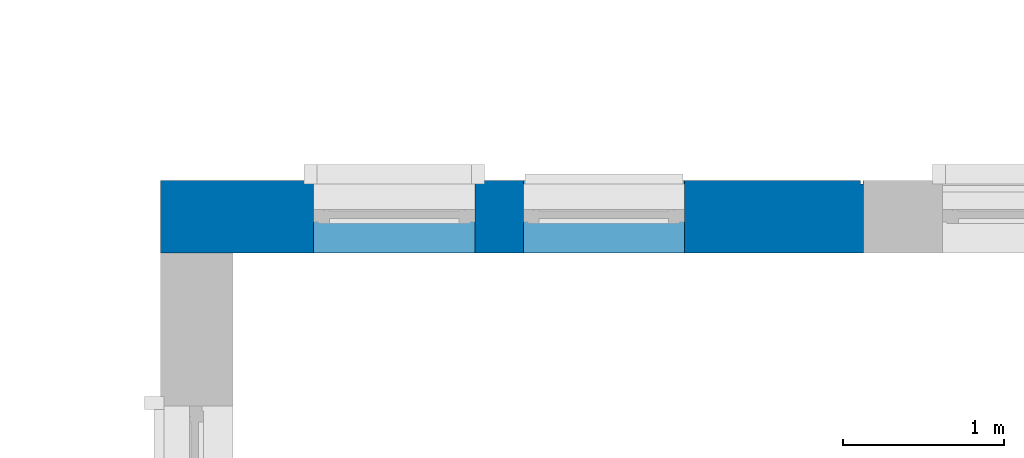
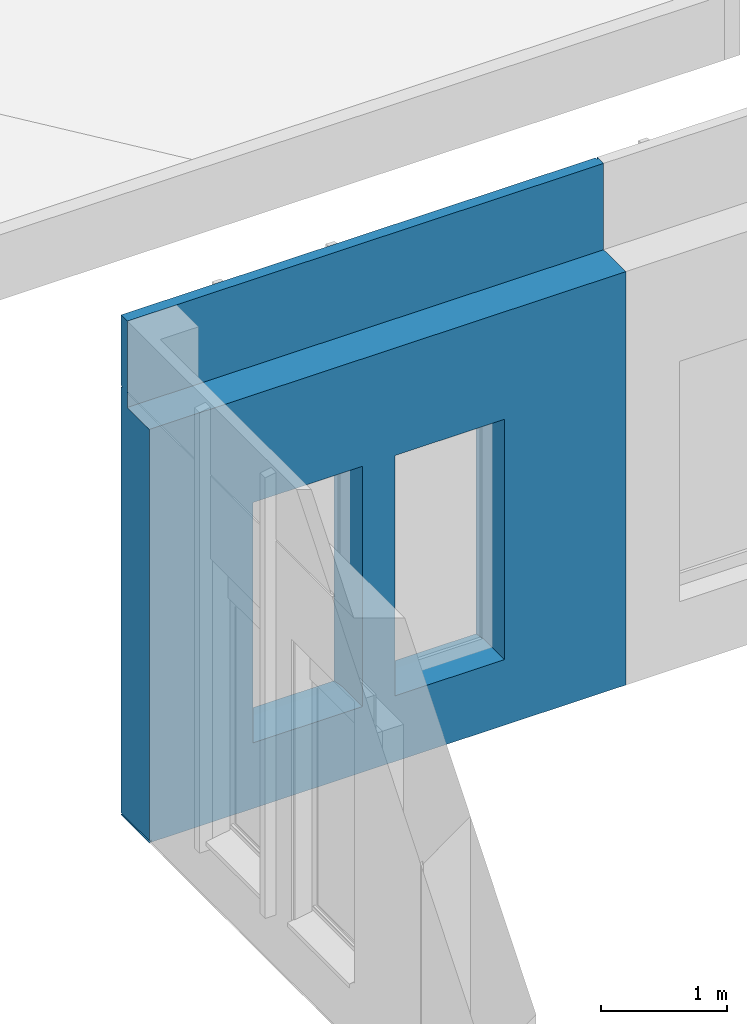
# One storey, part 12 of 33: 1 wall, 5 openings.
"""IFC2X3 building model written with IfcOpenShell, lengths in millimetres."""

from ifc_helpers import new_model, entity, si_unit, converted_unit, derived_unit, direction, frame, frame_2d, origin, place, context, subcontext, project, spatial, polyline, rectangle, extrude, clip, bounded_halfspace, faceted_brep, material, layer, layer_set, layer_usage, type_object, element, save


model = new_model("IFC2X3")

# Units and contexts
model_context = context("Model", 3, precision=0.01, world=origin(), true_north=direction((6.12303176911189e-17, 1.0)))
body_context = subcontext(model_context, "Body", "Model", "MODEL_VIEW")
ifc_project = project(units=[si_unit("LENGTHUNIT", "METRE", prefix="MILLI"), si_unit("AREAUNIT", "SQUARE_METRE"), si_unit("VOLUMEUNIT", "CUBIC_METRE"), converted_unit("PLANEANGLEUNIT", "DEGREE", entity("IfcRatioMeasure", 0.0174532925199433), si_unit("PLANEANGLEUNIT", "RADIAN"), dimensions=[0, 0, 0, 0, 0, 0, 0]), si_unit("MASSUNIT", "GRAM", prefix="KILO"), derived_unit("MASSDENSITYUNIT", [(si_unit("MASSUNIT", "GRAM", prefix="KILO"), 1), (si_unit("LENGTHUNIT", "METRE"), -3)]), si_unit("TIMEUNIT", "SECOND"), si_unit("FREQUENCYUNIT", "HERTZ"), si_unit("THERMODYNAMICTEMPERATUREUNIT", "DEGREE_CELSIUS"), derived_unit("THERMALTRANSMITTANCEUNIT", [(si_unit("MASSUNIT", "GRAM", prefix="KILO"), 1), (si_unit("THERMODYNAMICTEMPERATUREUNIT", "KELVIN"), -1), (si_unit("TIMEUNIT", "SECOND"), -3)]), derived_unit("VOLUMETRICFLOWRATEUNIT", [(si_unit("LENGTHUNIT", "METRE"), 3), (si_unit("TIMEUNIT", "SECOND"), -1)]), si_unit("ELECTRICCURRENTUNIT", "AMPERE"), si_unit("ELECTRICVOLTAGEUNIT", "VOLT"), si_unit("POWERUNIT", "WATT"), si_unit("FORCEUNIT", "NEWTON", prefix="KILO"), si_unit("ILLUMINANCEUNIT", "LUX"), si_unit("LUMINOUSFLUXUNIT", "LUMEN"), si_unit("LUMINOUSINTENSITYUNIT", "CANDELA"), derived_unit("USERDEFINED", [(si_unit("MASSUNIT", "GRAM", prefix="KILO"), -1), (si_unit("LENGTHUNIT", "METRE"), -2), (si_unit("TIMEUNIT", "SECOND"), 3), (si_unit("LUMINOUSFLUXUNIT", "LUMEN"), 1)]), derived_unit("LINEARVELOCITYUNIT", [(si_unit("LENGTHUNIT", "METRE"), 1), (si_unit("TIMEUNIT", "SECOND"), -1)]), si_unit("PRESSUREUNIT", "PASCAL"), derived_unit("USERDEFINED", [(si_unit("LENGTHUNIT", "METRE"), -2), (si_unit("MASSUNIT", "GRAM", prefix="KILO"), 1), (si_unit("TIMEUNIT", "SECOND"), -2)])], contexts=[model_context])

# Site, building, storey
site_placement = place(None, origin())
site = spatial("IfcSite", under=ifc_project, at=site_placement, Name="Default", CompositionType="ELEMENT")
building_placement = place(site_placement, origin())
building = spatial("IfcBuilding", under=site, at=building_placement, CompositionType="ELEMENT")
storey_placement = place(building_placement, frame((0.0, 0.0, 4000.0)))
storey = spatial("IfcBuildingStorey", under=building, at=storey_placement, Name="2. KORRUS", CompositionType="ELEMENT", Elevation=4000.0)

# Wall, openings
ifc_material_1 = material(Name="RECKLI 1 173 THUR by Polantis 2016-toon4")
ifc_layer_1 = layer(ifc_material_1, 100.0)
ifc_material_2 = material(Name="Soojusisolatsioon EPS")
ifc_layer_2 = layer(ifc_material_2, 200.0)
ifc_material_3 = material(Name="r/b")
ifc_layer_3 = layer(ifc_material_3, 150.0)
ifc_layer_set = layer_set([ifc_layer_1, ifc_layer_2, ifc_layer_3], Name="Basic Wall:VS-1_toon-a")
ifc_layer_usage = layer_usage(ifc_layer_set, "AXIS2", "NEGATIVE", 225.0)
wall_type = type_object("IfcWallType", Name="Basic Wall:VS-1_toon-a", PredefinedType="STANDARD", material=ifc_layer_set)
wall_placement = place(storey_placement, frame((-450.0, 27825.0, -135.0)))
wall = element("IfcWallStandardCase", 1, at=wall_placement, inside=storey, type_object=wall_type, material=ifc_layer_usage, Name="Basic Wall:VS-1_toon-a", ObjectType="Basic Wall:VS-1_toon-a", context=body_context, shape_type="Clipping", body=[
    clip(extrude(rectangle(XDim=4360.0, YDim=450.000000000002, at=frame_2d((2180.0, -1.46371803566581e-12), x_axis=(-1.0, 0.0))), origin(), (0.0, 0.0, 1.0), 4835.0), bounded_halfspace(frame((0.0, -225.0, 4000.0), z_axis=(0.0, 0.0, 1.0), x_axis=(0.0, 1.0, 0.0)), False, frame((0.0, -225.0, 4000.0)), polyline([(0.0, 0.0), (450.0, 0.0), (4360.0, 0.0), (4360.0, 350.0), (100.0, 350.0), (0.0, 350.0), (0.0, 0.0)]))),
])
opening_1_placement = place(wall_placement, origin())
element("IfcOpeningElement", 2, at=opening_1_placement, cuts=wall, Name="Basic Wall:VS-1_toon-a", ObjectType="Recess", context=body_context, shape_type="SweptSolid", body=[
    extrude(rectangle(XDim=4265.0, YDim=16.0000000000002, at=frame_2d((0.0, -2.70450328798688e-13), x_axis=(1.0, 0.0))), frame((4349.95631181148, 205.0, -2132.5), z_axis=(0.0, 1.0, 0.0), x_axis=(0.0, 0.0, 1.0)), (0.0, 0.0, 1.0), 19.9999999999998),
    extrude(rectangle(XDim=4835.0, YDim=16.0000000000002, at=frame_2d((2.27373675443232e-13, -2.70450328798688e-13), x_axis=(1.0, 0.0))), frame((4349.95631181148, 205.0, 2417.5), z_axis=(0.0, 1.0, 0.0), x_axis=(0.0, 0.0, 1.0)), (0.0, 0.0, 1.0), 19.9999999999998),
])
opening_2_placement = place(wall_placement, frame((0.0, -28275.0, 4.0)))
element("IfcOpeningElement", 3, at=opening_2_placement, cuts=wall, Name="Basic Wall:VS-1_toon-a", ObjectType="Opening", context=body_context, shape_type="Brep", body=[
    faceted_brep([(11850.0, 20.0, 16.0), (11850.0, 0.0, 16.0), (11850.0, 0.0, 0.0), (11850.0, 20.0, 0.0), (4260.0, 20.0, 16.0), (4260.0, 20.0, 0.0), (4260.0, 0.0, 0.0), (4260.0, 0.0, 16.0)], [[[0, 1, 2, 3]], [[4, 5, 6, 7]], [[1, 0, 4, 7]], [[2, 1, 7, 6]], [[3, 2, 6, 5]], [[0, 3, 5, 4]]]),
    faceted_brep([(20.0, 28480.0, 16.0), (20.0, 28480.0, 0.0), (0.0, 28500.0, 0.0), (0.0, 28500.0, 16.0), (20.0, 23740.0, 16.0), (0.0, 23740.0, 16.0), (0.0, 23740.0, 0.0), (20.0, 23740.0, 0.0)], [[[0, 1, 2, 3]], [[4, 5, 6, 7]], [[1, 0, 4, 7]], [[2, 1, 7, 6]], [[3, 2, 6, 5]], [[0, 3, 5, 4]]]),
    faceted_brep([(10080.0, 22380.0517807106, 16.0), (10100.0, 22400.0517807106, 16.0), (10100.0, 22400.0517807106, 0.0), (10080.0, 22380.0517807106, 0.0), (15330.3475962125, 22380.0517807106, 16.0), (15330.3475962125, 22380.0517807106, 0.0), (15330.3475962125, 22400.0517807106, 0.0), (15330.3475962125, 22400.0517807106, 16.0)], [[[0, 1, 2, 3]], [[4, 5, 6, 7]], [[1, 0, 4, 7]], [[2, 1, 7, 6]], [[3, 2, 6, 5]], [[0, 3, 5, 4]]]),
    faceted_brep([(20.0, 28480.0, 16.0), (0.0, 28500.0, 16.0), (0.0, 28500.0, 0.0), (20.0, 28480.0, 0.0), (4360.0, 28480.0, 16.0), (4360.0, 28480.0, 0.0), (4360.0, 28500.0, 0.0), (4360.0, 28500.0, 16.0)], [[[0, 1, 2, 3]], [[4, 5, 6, 7]], [[1, 0, 4, 7]], [[2, 1, 7, 6]], [[3, 2, 6, 5]], [[0, 3, 5, 4]]]),
    faceted_brep([(40380.0, 20.0, 16.0), (40400.0, 0.0, 16.0), (40400.0, 0.0, 0.0), (40380.0, 20.0, 0.0), (35250.0, 20.0, 16.0), (35250.0, 20.0, 0.0), (35250.0, 0.0, 0.0), (35250.0, 0.0, 16.0)], [[[0, 1, 2, 3]], [[4, 5, 6, 7]], [[1, 0, 4, 7]], [[2, 1, 7, 6]], [[3, 2, 6, 5]], [[0, 3, 5, 4]]]),
    faceted_brep([(34420.1035702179, 22380.0517807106, 16.0), (34420.1035702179, 22400.0517807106, 16.0), (34420.1035702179, 22400.0517807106, 0.0), (34420.1035702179, 22380.0517807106, 0.0), (40380.0, 22380.0517807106, 16.0), (40380.0, 22380.0517807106, 0.0), (40400.0, 22400.0517807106, 0.0), (40400.0, 22400.0517807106, 16.0)], [[[0, 1, 2, 3]], [[4, 5, 6, 7]], [[1, 0, 4, 7]], [[2, 1, 7, 6]], [[3, 2, 6, 5]], [[0, 3, 5, 4]]]),
    faceted_brep([(29113.2161487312, 22380.0517807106, 16.0), (29113.2161487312, 22400.0517807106, 16.0), (29113.2161487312, 22400.0517807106, 0.0), (29113.2161487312, 22380.0517807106, 0.0), (34420.1035702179, 22380.0517807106, 16.0), (34420.1035702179, 22380.0517807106, 0.0), (34420.1035702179, 22400.0517807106, 0.0), (34420.1035702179, 22400.0517807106, 16.0)], [[[0, 1, 2, 3]], [[4, 5, 6, 7]], [[1, 0, 4, 7]], [[2, 1, 7, 6]], [[3, 2, 6, 5]], [[0, 3, 5, 4]]]),
    faceted_brep([(10080.0, 28480.0, 16.0), (10100.0, 28500.0, 16.0), (10100.0, 28500.0, 0.0), (10080.0, 28480.0, 0.0), (10080.0, 22380.0517807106, 16.0), (10080.0, 22380.0517807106, 0.0), (10100.0, 22400.0517807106, 0.0), (10100.0, 22400.0517807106, 16.0)], [[[0, 1, 2, 3]], [[4, 5, 6, 7]], [[1, 0, 4, 7]], [[2, 1, 7, 6]], [[3, 2, 6, 5]], [[0, 3, 5, 4]]]),
    faceted_brep([(4260.0, 20.0, 16.0), (4260.0, 0.0, 16.0), (4260.0, 0.0, 0.0), (4260.0, 20.0, 0.0), (0.0, 20.0, 16.0), (0.0, 20.0, 0.0), (0.0, 0.0, 0.0), (0.0, 0.0, 16.0)], [[[0, 1, 2, 3]], [[4, 5, 6, 7]], [[1, 0, 4, 7]], [[2, 1, 7, 6]], [[3, 2, 6, 5]], [[0, 3, 5, 4]]]),
    faceted_brep([(40380.0, 4865.0, 16.0), (40400.0, 4865.0, 16.0), (40400.0, 4865.0, 0.0), (40380.0, 4865.0, 0.0), (40380.0, 20.0, 16.0), (40380.0, 20.0, 0.0), (40400.0, 0.0, 0.0), (40400.0, 0.0, 16.0)], [[[0, 1, 2, 3]], [[4, 5, 6, 7]], [[1, 0, 4, 7]], [[2, 1, 7, 6]], [[3, 2, 6, 5]], [[0, 3, 5, 4]]]),
    faceted_brep([(40380.0, 9093.33000000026, 16.0), (40400.0, 9093.33000000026, 16.0), (40400.0, 9093.33000000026, 0.0), (40380.0, 9093.33000000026, 0.0), (40380.0, 4865.0, 16.0), (40380.0, 4865.0, 0.0), (40400.0, 4865.0, 0.0), (40400.0, 4865.0, 16.0)], [[[0, 1, 2, 3]], [[4, 5, 6, 7]], [[1, 0, 4, 7]], [[2, 1, 7, 6]], [[3, 2, 6, 5]], [[0, 3, 5, 4]]]),
    faceted_brep([(40380.0, 13210.0, 16.0), (40400.0, 13210.0, 16.0), (40400.0, 13210.0, 0.0), (40380.0, 13210.0, 0.0), (40380.0, 9093.33000000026, 16.0), (40380.0, 9093.33000000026, 0.0), (40400.0, 9093.33000000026, 0.0), (40400.0, 9093.33000000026, 16.0)], [[[0, 1, 2, 3]], [[4, 5, 6, 7]], [[1, 0, 4, 7]], [[2, 1, 7, 6]], [[3, 2, 6, 5]], [[0, 3, 5, 4]]]),
    faceted_brep([(40380.0, 16240.0, 16.0), (40400.0, 16240.0, 16.0), (40400.0, 16240.0, 0.0), (40380.0, 16240.0, 0.0), (40380.0, 13210.0, 16.0), (40380.0, 13210.0, 0.0), (40400.0, 13210.0, 0.0), (40400.0, 13210.0, 16.0)], [[[0, 1, 2, 3]], [[4, 5, 6, 7]], [[1, 0, 4, 7]], [[2, 1, 7, 6]], [[3, 2, 6, 5]], [[0, 3, 5, 4]]]),
    faceted_brep([(40380.0, 22380.0517807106, 16.0), (40400.0, 22400.0517807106, 16.0), (40400.0, 22400.0517807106, 0.0), (40380.0, 22380.0517807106, 0.0), (40380.0, 16240.0, 16.0), (40380.0, 16240.0, 0.0), (40400.0, 16240.0, 0.0), (40400.0, 16240.0, 16.0)], [[[0, 1, 2, 3]], [[4, 5, 6, 7]], [[1, 0, 4, 7]], [[2, 1, 7, 6]], [[3, 2, 6, 5]], [[0, 3, 5, 4]]]),
    faceted_brep([(22535.0, 22380.0517807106, 16.0), (22535.0, 22400.0517807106, 16.0), (22535.0, 22400.0517807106, 0.0), (22535.0, 22380.0517807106, 0.0), (29113.2161487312, 22380.0517807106, 16.0), (29113.2161487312, 22380.0517807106, 0.0), (29113.2161487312, 22400.0517807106, 0.0), (29113.2161487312, 22400.0517807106, 16.0)], [[[0, 1, 2, 3]], [[4, 5, 6, 7]], [[1, 0, 4, 7]], [[2, 1, 7, 6]], [[3, 2, 6, 5]], [[0, 3, 5, 4]]]),
    faceted_brep([(18703.3528910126, 22380.0517807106, 16.0), (18703.3528910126, 22400.0517807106, 16.0), (18703.3528910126, 22400.0517807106, 0.0), (18703.3528910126, 22380.0517807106, 0.0), (22535.0, 22380.0517807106, 16.0), (22535.0, 22380.0517807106, 0.0), (22535.0, 22400.0517807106, 0.0), (22535.0, 22400.0517807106, 16.0)], [[[0, 1, 2, 3]], [[4, 5, 6, 7]], [[1, 0, 4, 7]], [[2, 1, 7, 6]], [[3, 2, 6, 5]], [[0, 3, 5, 4]]]),
    faceted_brep([(15330.3475962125, 22380.0517807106, 16.0), (15330.3475962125, 22400.0517807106, 16.0), (15330.3475962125, 22400.0517807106, 0.0), (15330.3475962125, 22380.0517807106, 0.0), (18703.3528910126, 22380.0517807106, 16.0), (18703.3528910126, 22380.0517807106, 0.0), (18703.3528910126, 22400.0517807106, 0.0), (18703.3528910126, 22400.0517807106, 16.0)], [[[0, 1, 2, 3]], [[4, 5, 6, 7]], [[1, 0, 4, 7]], [[2, 1, 7, 6]], [[3, 2, 6, 5]], [[0, 3, 5, 4]]]),
    faceted_brep([(4360.0, 28480.0, 16.0), (4360.0, 28500.0, 16.0), (4360.0, 28500.0, 0.0), (4360.0, 28480.0, 0.0), (10080.0, 28480.0, 16.0), (10080.0, 28480.0, 0.0), (10100.0, 28500.0, 0.0), (10100.0, 28500.0, 16.0)], [[[0, 1, 2, 3]], [[4, 5, 6, 7]], [[1, 0, 4, 7]], [[2, 1, 7, 6]], [[3, 2, 6, 5]], [[0, 3, 5, 4]]]),
    faceted_brep([(20.0, 23740.0, 16.0), (20.0, 23740.0, 0.0), (0.0, 23740.0, 0.0), (0.0, 23740.0, 16.0), (20.0, 16890.0006972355, 16.0), (0.0, 16890.0006972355, 16.0), (0.0, 16890.0006972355, 0.0), (20.0, 16890.0006972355, 0.0)], [[[0, 1, 2, 3]], [[4, 5, 6, 7]], [[1, 0, 4, 7]], [[2, 1, 7, 6]], [[3, 2, 6, 5]], [[0, 3, 5, 4]]]),
    faceted_brep([(20.0, 16890.0006972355, 16.0), (20.0, 16890.0006972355, 0.0), (0.0, 16890.0006972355, 0.0), (0.0, 16890.0006972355, 16.0), (20.0, 13460.0, 16.0), (0.0, 13460.0, 16.0), (0.0, 13460.0, 0.0), (20.0, 13460.0, 0.0)], [[[0, 1, 2, 3]], [[4, 5, 6, 7]], [[1, 0, 4, 7]], [[2, 1, 7, 6]], [[3, 2, 6, 5]], [[0, 3, 5, 4]]]),
])
opening_3_placement = place(wall_placement, origin())
element("IfcOpeningElement", 4, at=opening_3_placement, cuts=wall, Name="Basic Wall:VS-1_toon-a", ObjectType="Opening", context=body_context, shape_type="SweptSolid", body=[
    extrude(rectangle(XDim=15.9999999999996, YDim=7590.0, at=frame_2d((0.0, -5.40900657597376e-13), x_axis=(0.0, 1.0))), frame((8055.0, -28275.0, 4147.0), z_axis=(0.0, 1.0, 0.0), x_axis=(-1.0, 0.0, 0.0)), (0.0, 0.0, 1.0), 20.0),
    extrude(rectangle(XDim=15.9999999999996, YDim=20.0, at=frame_2d((5.40900657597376e-13, -3.37507799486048e-14), x_axis=(1.0, 0.0))), frame((10.0, -4535.0, 4147.0), z_axis=(0.0, 1.0, 0.0), x_axis=(0.0, 0.0, -1.0)), (0.0, 0.0, 1.0), 4660.0),
    extrude(rectangle(XDim=15.9999999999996, YDim=5230.3475962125, at=frame_2d((0.0, 5.40900657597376e-13), x_axis=(0.0, 1.0))), frame((12715.1737981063, -5894.94821928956, 4147.0), z_axis=(0.0, 1.0, 0.0), x_axis=(1.0, 0.0, 0.0)), (0.0, 0.0, 1.0), 19.9999999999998),
    extrude(rectangle(XDim=15.9999999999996, YDim=4360.0, at=frame_2d((0.0, 5.40900657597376e-13), x_axis=(0.0, 1.0))), frame((2180.0, 205.0, 4147.0), z_axis=(0.0, 1.0, 0.0), x_axis=(1.0, 0.0, 0.0)), (0.0, 0.0, 1.0), 19.9999999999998),
    extrude(rectangle(XDim=15.9999999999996, YDim=5050.0, at=frame_2d((2.27373675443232e-12, 0.0), x_axis=(0.0, 1.0))), frame((37775.0, -28275.0, 4147.0), z_axis=(0.0, 1.0, 0.0), x_axis=(-1.0, 0.0, 0.0)), (0.0, 0.0, 1.0), 20.0),
    extrude(rectangle(XDim=15.9999999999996, YDim=5979.89642978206, at=frame_2d((-2.27373675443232e-12, 0.0), x_axis=(0.0, 1.0))), frame((37410.051785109, -5894.94821928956, 4147.0), z_axis=(0.0, 1.0, 0.0), x_axis=(1.0, 0.0, 0.0)), (0.0, 0.0, 1.0), 19.9999999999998),
    extrude(rectangle(XDim=15.9999999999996, YDim=5306.88742148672, at=frame_2d((2.04636307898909e-12, 5.40900657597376e-13), x_axis=(0.0, 1.0))), frame((31766.6598594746, -5894.94821928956, 4147.0), z_axis=(0.0, 1.0, 0.0), x_axis=(1.0, 0.0, 0.0)), (0.0, 0.0, 1.0), 19.9999999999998),
    extrude(rectangle(XDim=15.9999999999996, YDim=19.9999999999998, at=frame_2d((0.0, 5.40900657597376e-13), x_axis=(0.0, 1.0))), frame((10090.0, -5974.94821928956, 4147.0), z_axis=(0.0, 1.0, 0.0), x_axis=(1.0, 0.0, 0.0)), (0.0, 0.0, 1.0), 6099.94821928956),
    extrude(rectangle(XDim=15.9999999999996, YDim=4160.00000000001, at=frame_2d((0.0, -5.40900657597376e-13), x_axis=(0.0, 1.0))), frame((2180.0, -28275.0, 4147.0), z_axis=(0.0, 1.0, 0.0), x_axis=(-1.0, 0.0, 0.0)), (0.0, 0.0, 1.0), 20.0),
    extrude(rectangle(XDim=15.9999999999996, YDim=20.0000000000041, at=frame_2d((4.33164615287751e-12, 5.40900657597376e-13), x_axis=(0.0, 1.0))), frame((40390.0, -28275.0, 4147.0), z_axis=(0.0, 1.0, 0.0), x_axis=(1.0, 0.0, 0.0)), (0.0, 0.0, 1.0), 4865.0),
    extrude(rectangle(XDim=15.9999999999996, YDim=20.0000000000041, at=frame_2d((-4.33164615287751e-12, -5.40900657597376e-13), x_axis=(0.0, 1.0))), frame((40390.0, -23410.0, 4147.0), z_axis=(0.0, 1.0, 0.0), x_axis=(1.0, 0.0, 0.0)), (0.0, 0.0, 1.0), 4228.33000000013),
    extrude(rectangle(XDim=15.9999999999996, YDim=20.0000000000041, at=frame_2d((-4.33164615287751e-12, -5.40900657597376e-13), x_axis=(0.0, 1.0))), frame((40390.0, -19181.6699999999, 4147.0), z_axis=(0.0, 1.0, 0.0), x_axis=(1.0, 0.0, 0.0)), (0.0, 0.0, 1.0), 4236.66999997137),
    extrude(rectangle(XDim=15.9999999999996, YDim=20.0000000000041, at=frame_2d((4.33164615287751e-12, 5.40900657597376e-13), x_axis=(0.0, 1.0))), frame((40390.0, -14945.0, 4147.0), z_axis=(0.0, 1.0, 0.0), x_axis=(1.0, 0.0, 0.0)), (0.0, 0.0, 1.0), 2910.00000002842),
    extrude(rectangle(XDim=15.9999999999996, YDim=20.0000000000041, at=frame_2d((-4.33164615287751e-12, 5.40900657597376e-13), x_axis=(0.0, 1.0))), frame((40390.0, -12035.0, 4147.0), z_axis=(0.0, 1.0, 0.0), x_axis=(1.0, 0.0, 0.0)), (0.0, 0.0, 1.0), 6060.05178071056),
    extrude(rectangle(XDim=15.9999999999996, YDim=3831.64710898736, at=frame_2d((1.13686837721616e-12, 5.40900657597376e-13), x_axis=(0.0, 1.0))), frame((20619.1764455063, -5894.94821928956, 4147.0), z_axis=(0.0, 1.0, 0.0), x_axis=(1.0, 0.0, 0.0)), (0.0, 0.0, 1.0), 19.9999999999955),
    extrude(rectangle(XDim=15.9999999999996, YDim=3373.00529480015, at=frame_2d((0.0, 5.40900657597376e-13), x_axis=(0.0, 1.0))), frame((17016.8502436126, -5894.94821928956, 4147.0), z_axis=(0.0, 1.0, 0.0), x_axis=(1.0, 0.0, 0.0)), (0.0, 0.0, 1.0), 19.9999999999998),
    extrude(rectangle(XDim=15.9999999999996, YDim=5739.99999999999, at=frame_2d((-2.27373675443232e-13, 5.40900657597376e-13), x_axis=(0.0, 1.0))), frame((7230.0, 205.0, 4147.0), z_axis=(0.0, 1.0, 0.0), x_axis=(1.0, 0.0, 0.0)), (0.0, 0.0, 1.0), 19.9999999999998),
    extrude(rectangle(XDim=15.9999999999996, YDim=20.0, at=frame_2d((5.40900657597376e-13, -3.37507799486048e-14), x_axis=(1.0, 0.0))), frame((10.0, -11384.9993027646, 4147.0), z_axis=(0.0, 1.0, 0.0), x_axis=(0.0, 0.0, -1.0)), (0.0, 0.0, 1.0), 6849.99930276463),
    extrude(rectangle(XDim=15.9999999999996, YDim=20.0, at=frame_2d((5.40900657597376e-13, 3.37507799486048e-14), x_axis=(1.0, 0.0))), frame((10.0, -14815.0, 4147.0), z_axis=(0.0, 1.0, 0.0), x_axis=(0.0, 0.0, -1.0)), (0.0, 0.0, 1.0), 3430.00069726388),
    extrude(rectangle(XDim=15.9999999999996, YDim=6578.21614873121, at=frame_2d((0.0, 5.40900657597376e-13), x_axis=(0.0, 1.0))), frame((25824.1080743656, -5894.94821928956, 4147.0), z_axis=(0.0, 1.0, 0.0), x_axis=(1.0, 0.0, 0.0)), (0.0, 0.0, 1.0), 19.9999999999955),
    extrude(rectangle(XDim=15.9999999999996, YDim=4110.0, at=frame_2d((1.13686837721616e-12, -5.40900657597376e-13), x_axis=(0.0, 1.0))), frame((13905.0, -28275.0, 4147.0), z_axis=(0.0, 1.0, 0.0), x_axis=(-1.0, 0.0, 0.0)), (0.0, 0.0, 1.0), 19.9999999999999),
    extrude(rectangle(XDim=15.9999999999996, YDim=4600.0, at=frame_2d((-2.27373675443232e-12, -5.40900657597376e-13), x_axis=(0.0, 1.0))), frame((18260.0, -28275.0, 4147.0), z_axis=(0.0, 1.0, 0.0), x_axis=(-1.0, 0.0, 0.0)), (0.0, 0.0, 1.0), 20.0),
    extrude(rectangle(XDim=15.9999999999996, YDim=4600.0, at=frame_2d((2.27373675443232e-12, -5.40900657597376e-13), x_axis=(0.0, 1.0))), frame((22860.0, -28275.0, 4147.0), z_axis=(0.0, 1.0, 0.0), x_axis=(-1.0, 0.0, 0.0)), (0.0, 0.0, 1.0), 20.0),
    extrude(rectangle(XDim=15.9999999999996, YDim=5299.99999999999, at=frame_2d((-2.04636307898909e-12, -5.40900657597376e-13), x_axis=(0.0, 1.0))), frame((27810.0, -28275.0, 4147.0), z_axis=(0.0, 1.0, 0.0), x_axis=(-1.0, 0.0, 0.0)), (0.0, 0.0, 1.0), 20.0),
    extrude(rectangle(XDim=15.9999999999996, YDim=4790.0, at=frame_2d((0.0, -5.40900657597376e-13), x_axis=(0.0, 1.0))), frame((32855.0, -28275.0, 4147.0), z_axis=(0.0, 1.0, 0.0), x_axis=(-1.0, 0.0, 0.0)), (0.0, 0.0, 1.0), 20.0000000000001),
    extrude(rectangle(XDim=15.9999999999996, YDim=20.0, at=frame_2d((5.40900657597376e-13, -3.37507799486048e-14), x_axis=(1.0, 0.0))), frame((10.0, -19539.8592048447, 4147.0), z_axis=(0.0, 1.0, 0.0), x_axis=(0.0, 0.0, -1.0)), (0.0, 0.0, 1.0), 4724.85920481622),
    extrude(rectangle(XDim=15.9999999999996, YDim=20.0, at=frame_2d((5.40900657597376e-13, -3.37507799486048e-14), x_axis=(1.0, 0.0))), frame((10.0, -28275.0, 4147.0), z_axis=(0.0, 1.0, 0.0), x_axis=(0.0, 0.0, -1.0)), (0.0, 0.0, 1.0), 8735.1407951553),
])
opening_4_placement = place(wall_placement, frame((2250.0052400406, -225.0, 613.057009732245)))
element("IfcOpeningElement", 5, at=opening_4_placement, cuts=wall, Name="Basic Wall:VS-1_toon-a", ObjectType="Opening", context=body_context, shape_type="Brep", body=[
    faceted_brep([(1000.0, 0.0, 2346.94299026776), (0.0, 0.0, 2346.94299026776), (0.0, 0.0, 21.9429902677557), (1000.0, 0.0, 21.9429902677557), (0.0, 450.0, 2721.94299026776), (1000.0, 450.0, 2721.94299026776), (1000.0, 450.0, 0.0), (0.0, 450.0, 0.0), (1000.0, 325.555118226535, 21.9429902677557), (1000.0, 250.0, 2721.94299026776), (1000.0, 250.0, 2346.94299026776), (0.0, 325.555118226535, 21.9429902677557), (0.0, 250.0, 2346.94299026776), (0.0, 250.0, 2721.94299026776)], [[[0, 1, 2, 3]], [[4, 5, 6, 7]], [[0, 3, 8, 6, 5, 9, 10]], [[3, 2, 11, 8]], [[2, 1, 12, 13, 4, 7, 11]], [[1, 0, 10, 12]], [[9, 13, 12, 10]], [[13, 9, 5, 4]], [[6, 8, 11, 7]]]),
])
opening_5_placement = place(wall_placement, frame((950.005240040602, -225.0, 613.057009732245)))
element("IfcOpeningElement", 6, at=opening_5_placement, cuts=wall, Name="Basic Wall:VS-1_toon-a", ObjectType="Opening", context=body_context, shape_type="Brep", body=[
    faceted_brep([(1000.0, 0.0, 2346.94299026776), (0.0, 0.0, 2346.94299026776), (0.0, 0.0, 21.9429902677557), (1000.0, 0.0, 21.9429902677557), (0.0, 450.0, 2721.94299026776), (1000.0, 450.0, 2721.94299026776), (1000.0, 450.0, 0.0), (0.0, 450.0, 0.0), (1000.0, 325.555118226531, 21.9429902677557), (1000.0, 250.0, 2721.94299026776), (1000.0, 250.0, 2346.94299026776), (0.0, 325.555118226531, 21.9429902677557), (0.0, 250.0, 2346.94299026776), (0.0, 250.0, 2721.94299026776)], [[[0, 1, 2, 3]], [[4, 5, 6, 7]], [[0, 3, 8, 6, 5, 9, 10]], [[3, 2, 11, 8]], [[2, 1, 12, 13, 4, 7, 11]], [[1, 0, 10, 12]], [[9, 13, 12, 10]], [[13, 9, 5, 4]], [[6, 8, 11, 7]]]),
])

save(model, "model.ifc")
